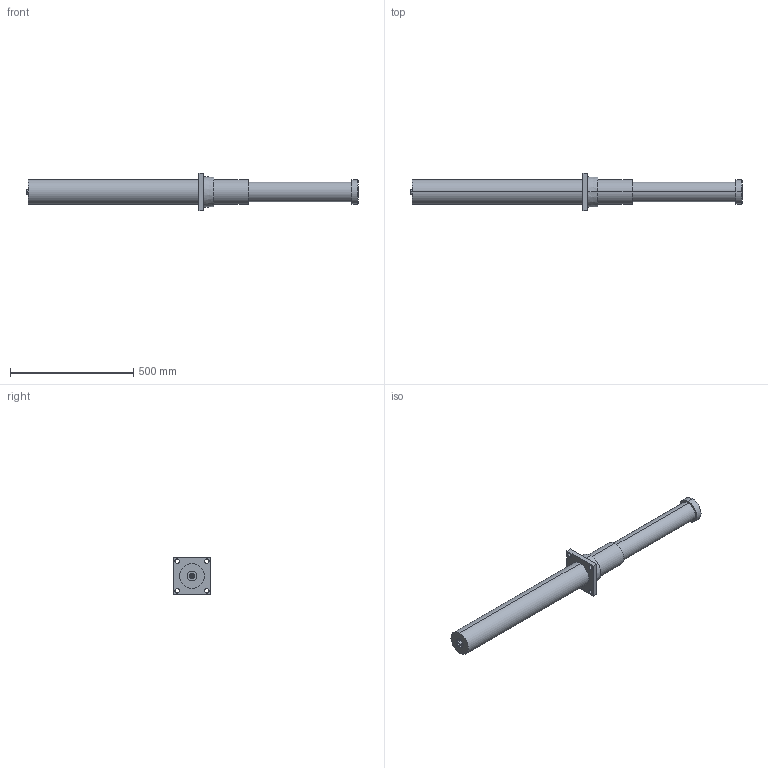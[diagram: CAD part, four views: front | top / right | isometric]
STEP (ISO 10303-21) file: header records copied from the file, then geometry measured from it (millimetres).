
FILE_DESCRIPTION (( 'STEP AP214' ), '1' );
FILE_NAME ('LDH100X400FF.STEP', '2019-01-21T04:56:14', ( 'user' ), ( 'Microsoft' ), 'SwSTEP 2.0', 'SolidWorks 2016', '' );
FILE_SCHEMA (( 'AUTOMOTIVE_DESIGN' ));
Length unit declared in the file: millimetre
Products named in the file (1): LDH100X400FF
Bounding box: 1345 x 150 x 150 mm (x, y, z)
Volume: 9704781.6 mm3; surface area: 457019.2 mm2
Topology: 1 solids, 5 shells, 65 faces, 140 edges, 92 vertices
Faces by surface type: cylinder 30, plane 29, cone 6
Entity records: 1840 total; most frequent: DIRECTION 348, CARTESIAN_POINT 298, ORIENTED_EDGE 280, AXIS2_PLACEMENT_3D 142, EDGE_CURVE 140, VERTEX_POINT 92, EDGE_LOOP 80, CIRCLE 76
